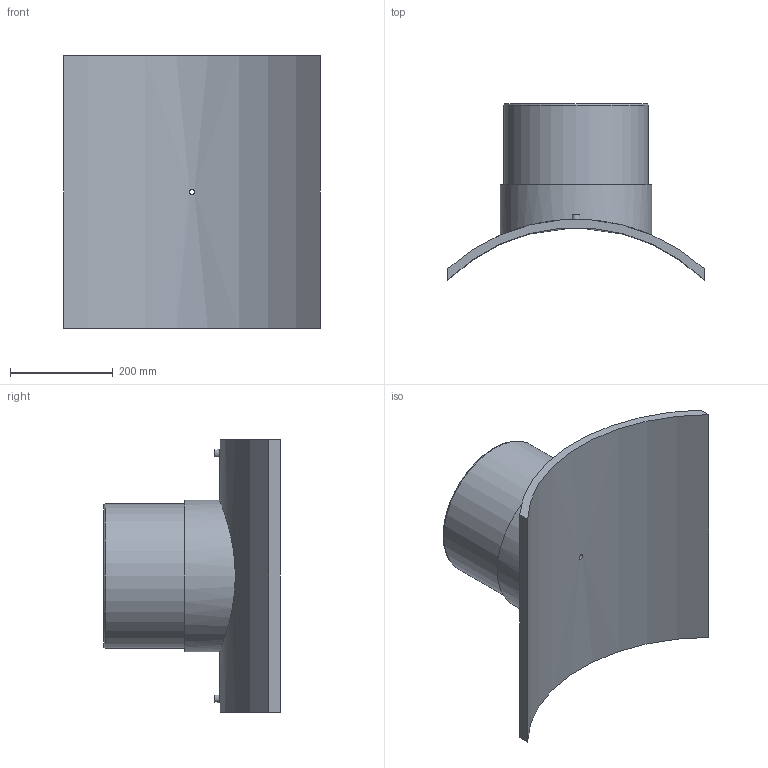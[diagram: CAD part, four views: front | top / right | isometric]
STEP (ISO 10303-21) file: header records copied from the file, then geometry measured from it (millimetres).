
FILE_DESCRIPTION(/* description */ ('PLASSON BRANCH SADDLE 710x280'),/* implementation_level */ '2;1');
FILE_NAME(/* name */ 'C:\Dropbox\KIMPROJECTS-Inventor 2019\99-16-3568-Processing\ElectroFusion Fittings\495803\stp\495803710280T.stp',/* time_stamp */ '2024-04-04T11:56:23+02:00',/* author */ ('KIM'),/* organization */ (''),/* preprocessor_version */ 'ST-DEVELOPER v17.2',/* originating_system */ 'Autodesk Inventor 2019',/* authorisation */ '');
FILE_SCHEMA (('AUTOMOTIVE_DESIGN { 1 0 10303 214 3 1 1 }'));
Length unit declared in the file: millimetre
Products named in the file (1): 495803710280T
Bounding box: 498 x 342.97 x 530 mm (x, y, z)
Volume: 10414186.1 mm3; surface area: 1009911.9 mm2
Topology: 1 solids, 1 shells, 29 faces, 60 edges, 43 vertices
Faces by surface type: plane 13, cylinder 12, torus 2, cone 2
Full cylindrical faces by diameter (mm): 4 x2, 9.6 x1, 10 x2, 16 x1, 224 x1, 280 x1, 294 x1
Entity records: 1086 total; most frequent: CARTESIAN_POINT 400, DIRECTION 139, ORIENTED_EDGE 120, EDGE_CURVE 60, AXIS2_PLACEMENT_3D 60, VERTEX_POINT 43, EDGE_LOOP 41, CIRCLE 30
